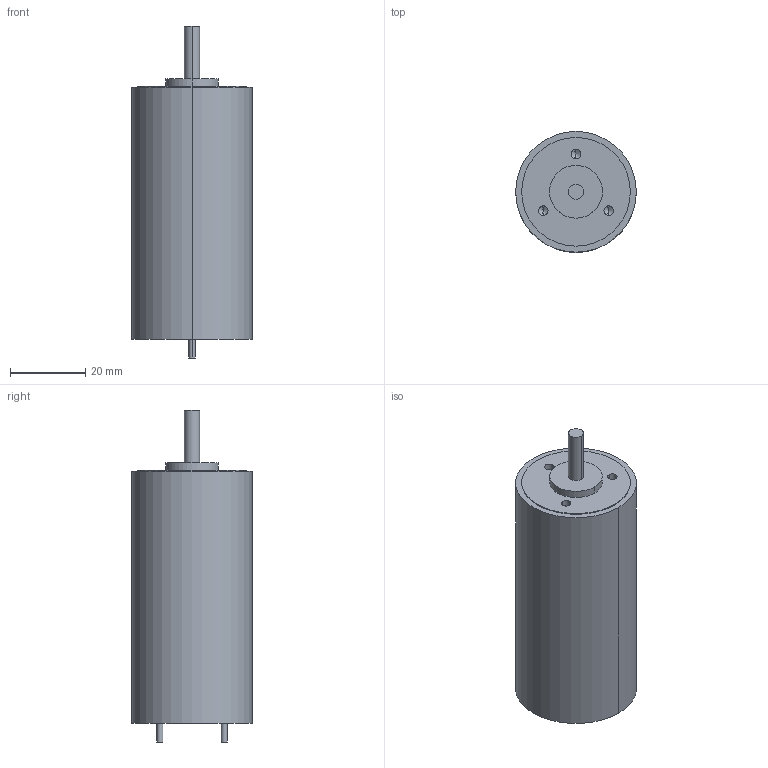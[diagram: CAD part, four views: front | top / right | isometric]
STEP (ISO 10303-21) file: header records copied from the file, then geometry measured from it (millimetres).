
FILE_DESCRIPTION (( 'STEP AP214' ), '1' );
FILE_NAME ('C-3264.STEP', '2024-11-12T07:54:19', ( '' ), ( '' ), 'SwSTEP 2.0', 'SolidWorks 2024', '' );
FILE_SCHEMA (( 'AUTOMOTIVE_DESIGN' ));
Length unit declared in the file: millimetre
Products named in the file (1): C-3264
Bounding box: 32 x 32 x 88 mm (x, y, z)
Volume: 54295.4 mm3; surface area: 8752.9 mm2
Topology: 1 solids, 1 shells, 31 faces, 66 edges, 39 vertices
Faces by surface type: cylinder 18, plane 7, cone 6
Entity records: 829 total; most frequent: DIRECTION 160, CARTESIAN_POINT 131, ORIENTED_EDGE 120, AXIS2_PLACEMENT_3D 68, EDGE_CURVE 60, EDGE_LOOP 39, VERTEX_POINT 39, CIRCLE 36
